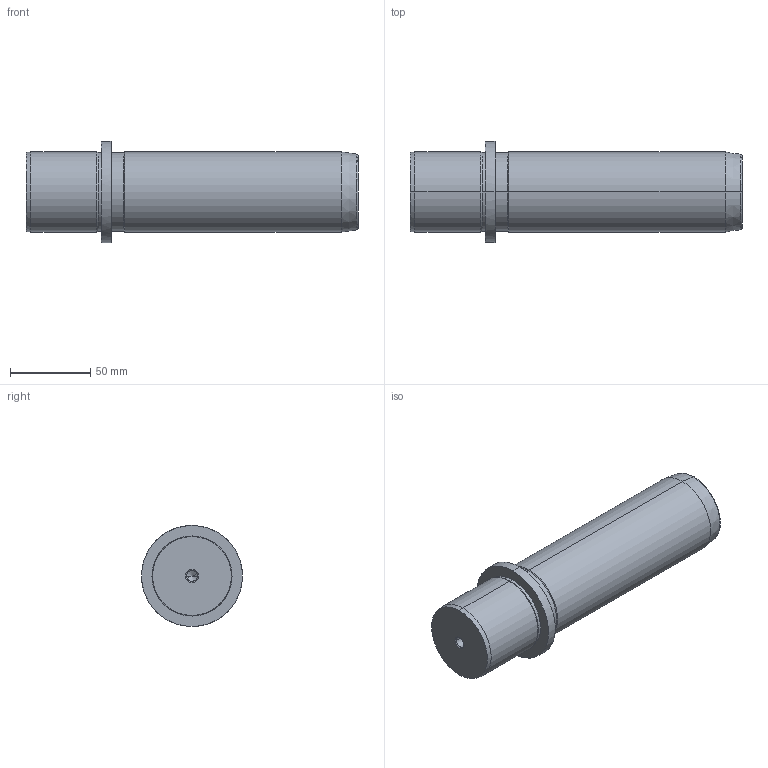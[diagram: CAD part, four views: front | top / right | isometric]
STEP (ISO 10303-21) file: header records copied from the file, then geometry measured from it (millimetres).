
FILE_DESCRIPTION(('CATIA V5 STEP Exchange'),'2;1');
FILE_NAME('C:\Users\Utente\Desktop\IO LAVORO\3D X SITO CF\X SITO\718\718-50x160.stp','2021-01-02T12:24:41+00:00',('none'),('none'),'CATIA Version 5 Release 20 GA (IN-10)','CATIA V5 STEP AP203','none');
FILE_SCHEMA(('CONFIG_CONTROL_DESIGN'));
Length unit declared in the file: millimetre
Products named in the file (1): 718-50x160
Bounding box: 207 x 63 x 63 mm (x, y, z)
Volume: 409500.6 mm3; surface area: 39799 mm2
Topology: 1 solids, 1 shells, 36 faces, 100 edges, 66 vertices
Faces by surface type: cone 16, cylinder 14, plane 4, torus 2
Entity records: 1291 total; most frequent: CARTESIAN_POINT 362, ORIENTED_EDGE 192, DIRECTION 157, EDGE_CURVE 96, AXIS2_PLACEMENT_3D 92, VERTEX_POINT 66, CIRCLE 55, EDGE_LOOP 40
